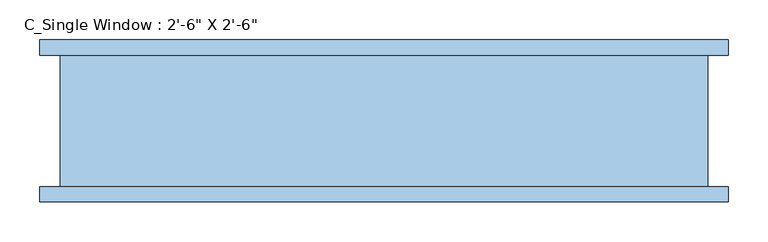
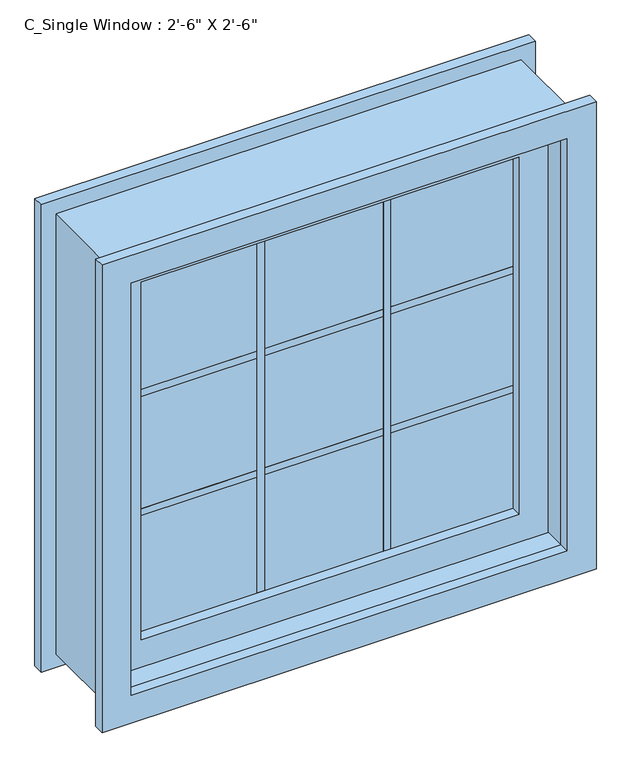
"""IFC4 building model written with IfcOpenShell, lengths in millimetres: window geometry."""

from ifc_helpers import new_model, si_unit, frame, origin, place, context, project, spatial, polyline, outline, extrude, source, transform, mapped, element, save


def window_753088f9(model_context):
    return source(origin(), model_context, "Body", "SweptSolid", [
        extrude(outline(polyline([(-103.7166667, -25.4), (-116.4166667, -25.4), (-116.4166667, -12.7), (-103.7166667, -12.7), (-103.7166667, -25.4)])), frame((0.0, 0.0, 863.6), z_axis=(0.0, 0.0, 1.0), x_axis=(1.0, 0.0, 0.0)), (0.0, 0.0, 1.0), 660.4),
        extrude(outline(polyline([(116.4166667, -25.4), (103.7166667, -25.4), (103.7166667, -12.7), (116.4166667, -12.7), (116.4166667, -25.4)])), frame((0.0, 0.0, 863.6), z_axis=(0.0, 0.0, 1.0), x_axis=(1.0, 0.0, 0.0)), (0.0, 0.0, 1.0), 660.4),
        extrude(outline(polyline([(-330.2, -12.7), (330.2, -12.7), (330.2, -25.4), (-330.2, -25.4), (-330.2, -12.7)])), frame((0.0, 0.0, 1297.5166667), z_axis=(0.0, 0.0, 1.0), x_axis=(1.0, 0.0, 0.0)), (0.0, 0.0, 1.0), 12.7),
        extrude(outline(polyline([(-330.2, -12.7), (330.2, -12.7), (330.2, -25.4), (-330.2, -25.4), (-330.2, -12.7)])), frame((0.0, 0.0, 1077.3833333), z_axis=(0.0, 0.0, 1.0), x_axis=(1.0, 0.0, 0.0)), (0.0, 0.0, 1.0), 12.7),
        extrude(outline(polyline([(-330.2, -12.7), (330.2, -12.7), (330.2, -25.4), (-330.2, -25.4), (-330.2, -12.7)])), frame((0.0, 0.0, 863.6), z_axis=(0.0, 0.0, 1.0), x_axis=(1.0, 0.0, 0.0)), (0.0, 0.0, 1.0), 660.4),
        extrude(outline(polyline([(1574.8, -381.0), (812.8, -381.0), (812.8, 381.0), (1574.8, 381.0), (1574.8, -381.0)]), holes=[polyline([(1524.0, 330.2), (863.6, 330.2), (863.6, -330.2), (1524.0, -330.2), (1524.0, 330.2)])]), frame((0.0, -44.45, 0.0), z_axis=(0.0, 1.0, 0.0), x_axis=(0.0, 0.0, 1.0)), (0.0, 0.0, 1.0), 50.8),
        extrude(outline(polyline([(1625.6, -431.8), (762.0, -431.8), (762.0, 431.8), (1625.6, 431.8), (1625.6, -431.8)]), holes=[polyline([(1574.8, -381.0), (1574.8, 381.0), (812.8, 381.0), (812.8, -381.0), (1574.8, -381.0)])]), frame((0.0, 82.55, 0.0), z_axis=(0.0, 1.0, 0.0), x_axis=(0.0, 0.0, 1.0)), (0.0, 0.0, 1.0), 19.05),
        extrude(outline(polyline([(1625.6, -431.8), (762.0, -431.8), (762.0, 431.8), (1625.6, 431.8), (1625.6, -431.8)]), holes=[polyline([(1574.8, -381.0), (1574.8, 381.0), (812.8, 381.0), (812.8, -381.0), (1574.8, -381.0)])]), frame((0.0, -101.6, 0.0), z_axis=(0.0, 1.0, 0.0), x_axis=(0.0, 0.0, 1.0)), (0.0, 0.0, 1.0), 19.05),
        extrude(outline(polyline([(1600.2, 406.4), (1600.2, -406.4), (787.4, -406.4), (787.4, 406.4), (1600.2, 406.4)]), holes=[polyline([(1574.8, -381.0), (1574.8, 381.0), (812.8, 381.0), (812.8, -381.0), (1574.8, -381.0)])]), frame((0.0, -82.55, 0.0), z_axis=(0.0, 1.0, 0.0), x_axis=(0.0, 0.0, 1.0)), (0.0, 0.0, 1.0), 165.1),
    ])


if __name__ == "__main__":
    model = new_model("IFC4")
    model_context = context("Model", 3, world=origin())
    ifc_project = project(units=[si_unit("LENGTHUNIT", "METRE", prefix="MILLI")], contexts=[model_context])
    site = spatial("IfcSite", under=ifc_project)
    building = spatial("IfcBuilding", under=site)
    placement = place(None, origin())
    window_shape = window_753088f9(model_context)
    element("IfcWindow", 1, ObjectType="C_Single Window : 2'-6\" X 2'-6\"", at=placement, inside=building, context=model_context, shape_type="MappedRepresentation", body=[
        mapped(window_shape, transform((0.0, 0.0, 0.0), x_axis=(1.0, 0.0, 0.0), y_axis=(0.0, 1.0, 0.0), z_axis=(0.0, 0.0, 1.0))),
    ])
    save(model, "model.ifc")
